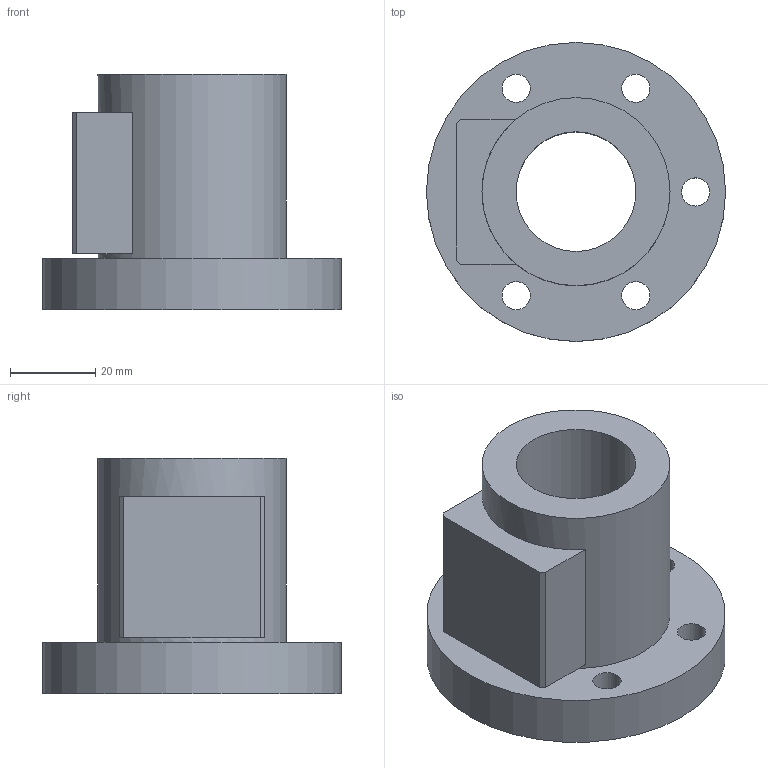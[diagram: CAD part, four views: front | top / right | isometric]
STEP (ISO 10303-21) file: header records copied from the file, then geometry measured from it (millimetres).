
FILE_DESCRIPTION(/* description */ (''),/* implementation_level */ '2;1');
FILE_NAME(/* name */ '28-6A2',/* time_stamp */ '2006-07-31T10:00:55+08:00',/* author */ (''),/* organization */ (''),/* preprocessor_version */ 'ST-DEVELOPER v9',/* originating_system */ 'UGS - NX 4.0',/* authorisation */ '');
FILE_SCHEMA (('CONFIG_CONTROL_DESIGN'));
Length unit declared in the file: millimetre
Products named in the file (1): 28-6A2
Bounding box: 70 x 70 x 55 mm (x, y, z)
Volume: 83112.2 mm3; surface area: 22537.2 mm2
Topology: 1 solids, 1 shells, 28 faces, 61 edges, 42 vertices
Faces by surface type: plane 15, cylinder 13
Full cylindrical faces by diameter (mm): 6.6 x5, 11 x5, 28 x1, 44 x1, 70 x1
Entity records: 794 total; most frequent: DIRECTION 130, CARTESIAN_POINT 111, ORIENTED_EDGE 88, EDGE_LOOP 60, AXIS2_PLACEMENT_3D 57, FACE_BOUND 45, EDGE_CURVE 44, VERTEX_POINT 38
